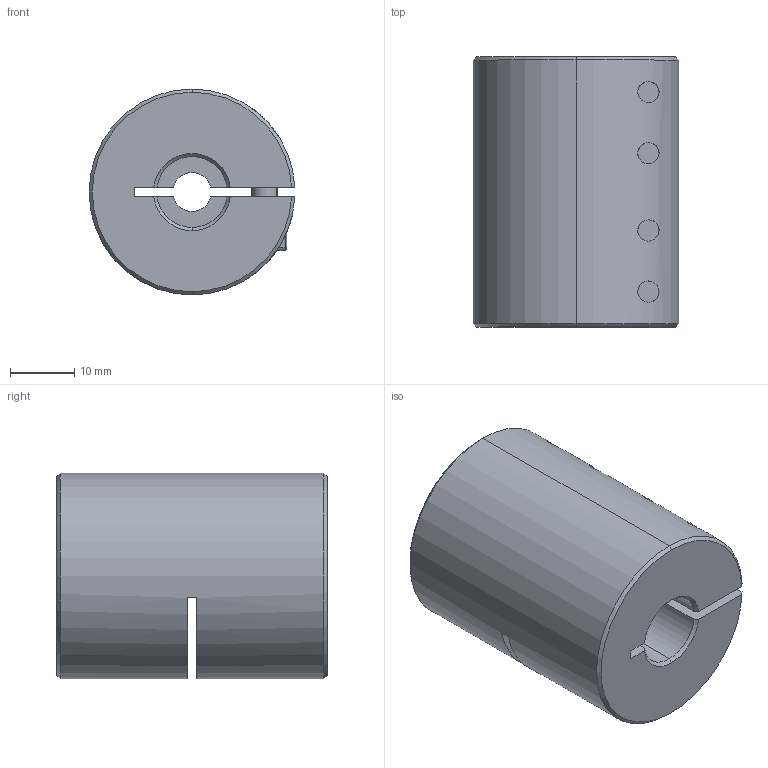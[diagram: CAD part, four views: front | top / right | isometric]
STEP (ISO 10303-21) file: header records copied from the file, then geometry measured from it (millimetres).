
FILE_DESCRIPTION (( 'STEP AP203' ), '1' );
FILE_NAME ('LL-B-D32L42-6-11.STEP', '2021-11-05T07:34:58', ( '' ), ( '' ), 'SwSTEP 2.0', 'SolidWorks 2018', '' );
FILE_SCHEMA (( 'CONFIG_CONTROL_DESIGN' ));
Length unit declared in the file: millimetre
Products named in the file (1): LL-B-D32L42-6-11
Bounding box: 31.98 x 42 x 32 mm (x, y, z)
Volume: 28657 mm3; surface area: 10316.7 mm2
Topology: 1 solids, 1 shells, 193 faces, 492 edges, 309 vertices
Faces by surface type: plane 88, cylinder 77, cone 20, torus 8
Entity records: 6376 total; most frequent: CARTESIAN_POINT 1559, DIRECTION 1037, ORIENTED_EDGE 968, EDGE_CURVE 484, AXIS2_PLACEMENT_3D 403, VERTEX_POINT 309, LINE 231, VECTOR 231
